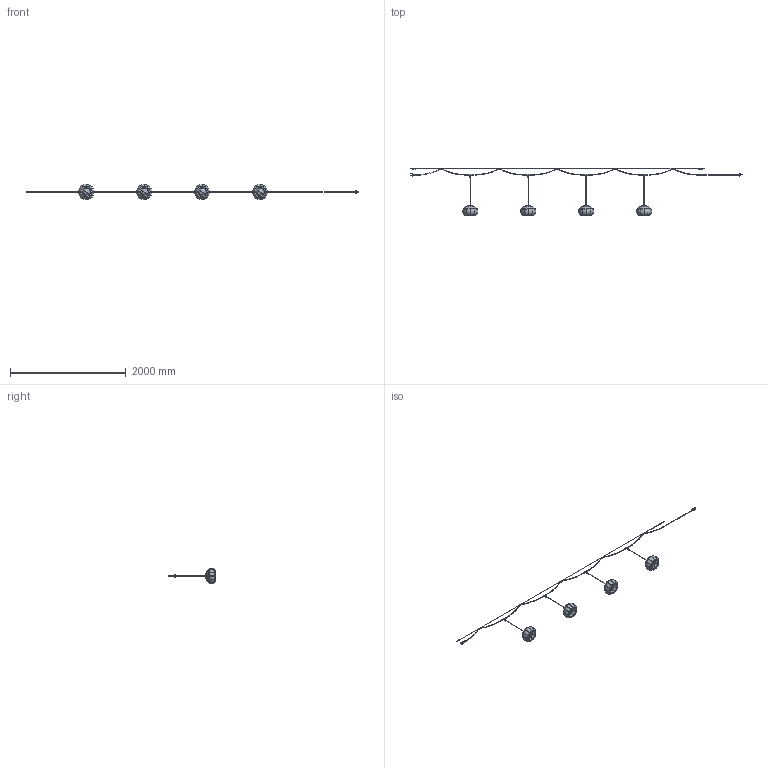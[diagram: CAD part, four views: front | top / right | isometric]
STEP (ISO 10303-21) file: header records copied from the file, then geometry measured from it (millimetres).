
FILE_DESCRIPTION (( 'STEP AP203' ), '1' );
FILE_NAME ('33503.STEP', '2019-05-02T10:48:21', ( '' ), ( '' ), 'SwSTEP 2.0', 'SolidWorks 2019', '' );
FILE_SCHEMA (( 'CONFIG_CONTROL_DESIGN' ));
Length unit declared in the file: millimetre
Products named in the file (39): 335-21; 335-076; TIRAFONDO630; D7982-3.9x32; 335-079; 909-052; 33503; D912-36A2; 914-172; 335-080; 335-077; 335-23; D7984-38 A2; 914-173; 920-059; SUB335-01; 918-017; 914-174; 906-015-700; 918-040; 335-35; 335-078; 33503-CABLE-DESARROLLO; 920-060; 335-09; 914-104; 914-096; D913-34A2; 918-018; D913-510A2; 908-038-GAROTA GIRNALDA; SUB335-003; 914-052; D6798J-3.2A2; 335-081; D7991-314 a4
Assembly tree (131 placements, depth 3):
  33503
    920-059
    335-076  x5
    D913-34A2  x5
    914-096  x5
    SUB335-01
      335-09
      335-077
      335-35
      914-052
      335-21
      906-015-700
      335-23
      D6798J-3.2A2  x3
      D7984-38 A2  x3
      D7991-314 a4  x3
      914-104
      918-017
      918-040
      918-018
      D912-36A2  x2
    SUB335-01
      335-09
      335-077
      335-35
      914-052
      335-21
      906-015-700
      335-23
      D6798J-3.2A2  x3
      D7984-38 A2  x3
      D7991-314 a4  x3
      914-104
      918-017
      918-040
      918-018
      D912-36A2  x2
    SUB335-01
      335-09
      335-077
      335-35
      914-052
      335-21
      906-015-700
      335-23
      D6798J-3.2A2  x3
      D7984-38 A2  x3
      D7991-314 a4  x3
      914-104
      918-017
      918-040
      918-018
      D912-36A2  x2
    908-038-GAROTA GIRNALDA
    SUB335-01
      335-09
      335-077
      335-35
      914-052
      335-21
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Bounding box: 5728.76 x 807.79 x 262.99 mm (x, y, z)
Volume: 1518785.2 mm3; surface area: 3233449.3 mm2
Topology: 141 solids, 160 shells, 4840 faces, 12129 edges, 7354 vertices
Faces by surface type: plane 1765, cylinder 1461, torus 686, cone 592, bspline 306, sphere 30
Entity records: 76732 total; most frequent: CARTESIAN_POINT 39691, DIRECTION 6623, ORIENTED_EDGE 6324, EDGE_CURVE 3168, AXIS2_PLACEMENT_3D 2699, VERTEX_POINT 1962, EDGE_LOOP 1408, CIRCLE 1369
